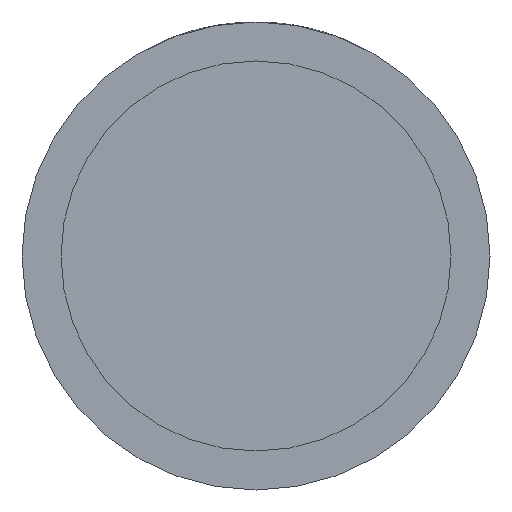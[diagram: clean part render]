
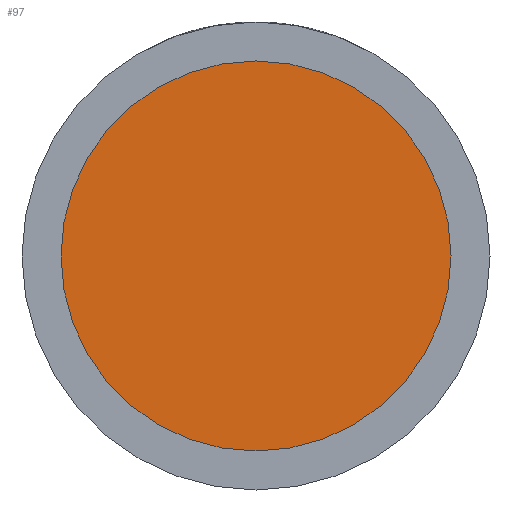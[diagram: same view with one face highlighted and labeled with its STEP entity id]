
A CAD part, front view. The second image highlights one B-rep face of the part: STEP entity #97.
In plain terms, the highlighted planar face has unit normal (0, -1, 0).
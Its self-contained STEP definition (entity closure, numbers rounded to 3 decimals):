
#17=PLANE('',#113);
#36=FACE_OUTER_BOUND('',#49,.T.);
#49=EDGE_LOOP('',(#87));
#56=CIRCLE('',#111,1.25);
#64=VERTEX_POINT('',#199);
#72=EDGE_CURVE('',#64,#64,#56,.T.);
#87=ORIENTED_EDGE('',*,*,#72,.T.);
#97=ADVANCED_FACE('',(#36),#17,.T.);
#111=AXIS2_PLACEMENT_3D('',#200,#137,#138);
#113=AXIS2_PLACEMENT_3D('',#203,#141,#142);
#137=DIRECTION('center_axis',(0.,-1.,0.));
#138=DIRECTION('ref_axis',(-1.,0.,0.));
#141=DIRECTION('center_axis',(0.,-1.,0.));
#142=DIRECTION('ref_axis',(0.,0.,-1.));
#199=CARTESIAN_POINT('',(1.25,-75.,0.));
#200=CARTESIAN_POINT('Origin',(0.,-75.,0.));
#203=CARTESIAN_POINT('Origin',(0.,-75.,0.));
